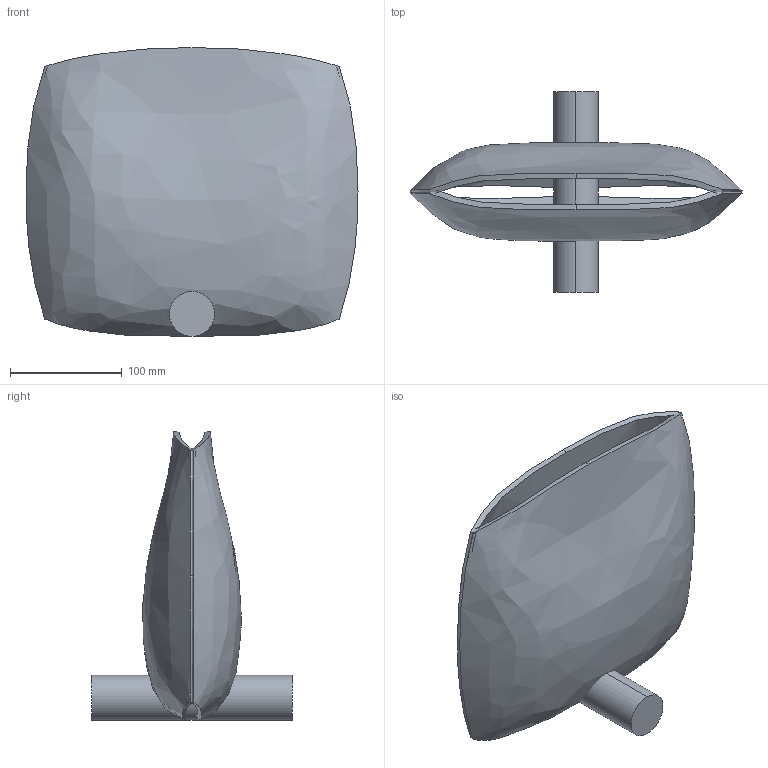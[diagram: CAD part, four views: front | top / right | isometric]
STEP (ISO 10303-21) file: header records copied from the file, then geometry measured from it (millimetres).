
FILE_DESCRIPTION(/* description */ (''),/* implementation_level */ '2;1');
FILE_NAME(/* name */ 'Guggenheim Square',/* time_stamp */ '2020-03-03T10:58:29+01:00',/* author */ (''),/* organization */ (''),/* preprocessor_version */ 'ST-DEVELOPER v15',/* originating_system */ '',/* authorisation */ '');
FILE_SCHEMA (('AUTOMOTIVE_DESIGN'));
Length unit declared in the file: millimetre
Products named in the file (1): Document
Bounding box: 297.57 x 180 x 258.89 mm (x, y, z)
Volume: 1007925.1 mm3; surface area: 346091.2 mm2
Topology: 3 solids, 3 shells, 24 faces, 54 edges, 36 vertices
Faces by surface type: bspline 22, plane 2
Entity records: 9897 total; most frequent: CARTESIAN_POINT 9522, ORIENTED_EDGE 108, EDGE_CURVE 54, B_SPLINE_CURVE_WITH_KNOTS 48, VERTEX_POINT 36, ADVANCED_FACE 24, FACE_OUTER_BOUND 24, EDGE_LOOP 24
